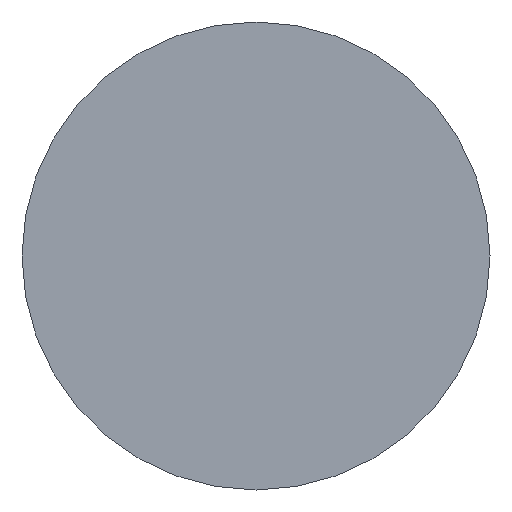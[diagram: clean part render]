
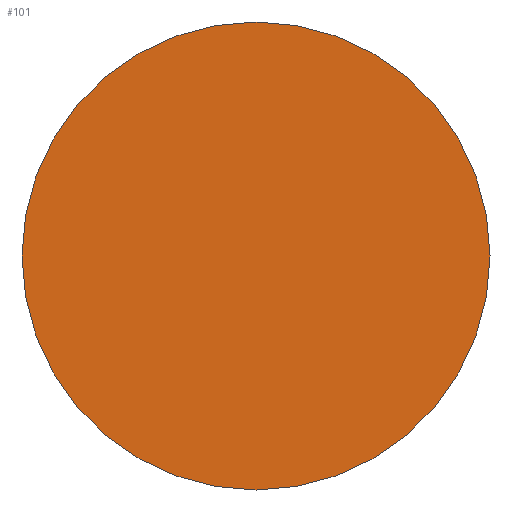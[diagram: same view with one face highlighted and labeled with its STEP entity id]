
A CAD part, left-side view. The second image highlights one B-rep face of the part: STEP entity #101.
In plain terms, the highlighted planar face has unit normal (-1, 0, 0).
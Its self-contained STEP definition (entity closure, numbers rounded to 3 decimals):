
#24=ORIENTED_EDGE('',*,*,#40,.F.);
#40=EDGE_CURVE('',#48,#48,#56,.T.);
#48=VERTEX_POINT('',#179);
#56=CIRCLE('',#124,10.25);
#64=EDGE_LOOP('',(#24));
#80=FACE_BOUND('',#64,.T.);
#96=PLANE('',#123);
#101=ADVANCED_FACE('',(#80),#96,.F.);
#123=AXIS2_PLACEMENT_3D('',#177,#142,#143);
#124=AXIS2_PLACEMENT_3D('',#178,#144,#145);
#142=DIRECTION('',(1.,0.,0.));
#143=DIRECTION('',(0.,0.,-1.));
#144=DIRECTION('',(1.,0.,0.));
#145=DIRECTION('',(0.,0.,-1.));
#177=CARTESIAN_POINT('',(0.,0.,0.));
#178=CARTESIAN_POINT('',(0.,0.,0.));
#179=CARTESIAN_POINT('',(0.,0.,-10.25));
